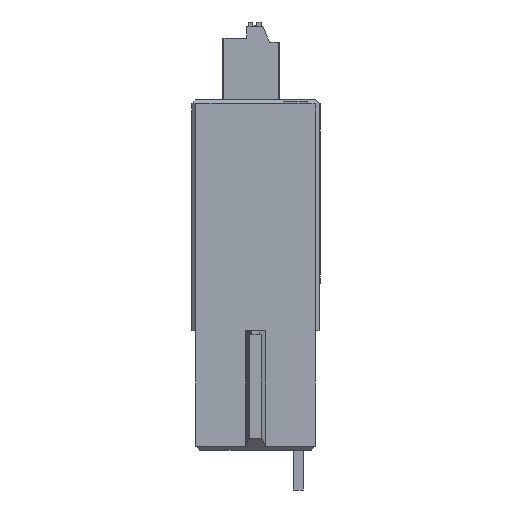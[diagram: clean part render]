
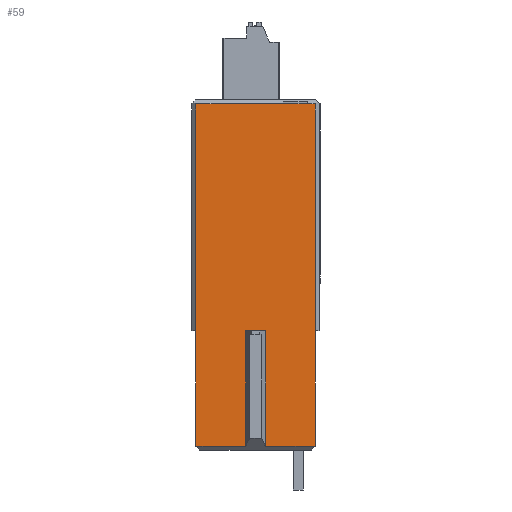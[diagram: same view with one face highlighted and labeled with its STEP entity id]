
A CAD part, front view. The second image highlights one B-rep face of the part: STEP entity #59.
In plain terms, the highlighted planar face has unit normal (0, -1, 0).
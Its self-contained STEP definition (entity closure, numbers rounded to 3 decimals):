
#16=VERTEX_POINT('',#17);
#17=CARTESIAN_POINT('',(-31.0,0.,57.0));
#42=VERTEX_POINT('',#43);
#43=CARTESIAN_POINT('',(-31.0,0.0,0.));
#49=EDGE_CURVE('',#42,#16,#50,.T.);
#50=LINE('',#51,#52);
#51=CARTESIAN_POINT('',(-31.0,0.,7.126));
#52=VECTOR('',#53,1.0);
#53=DIRECTION('',(0.,0.,1.0));
#59=ADVANCED_FACE('',(#60),#149,.T.);
#60=FACE_BOUND('',#61,.T.);
#61=EDGE_LOOP('',(#62,#72,#80,#88,#94,#95,#103,#111,#119,#127,#135,#143));
#62=ORIENTED_EDGE('',*,*,#63,.T.);
#63=EDGE_CURVE('',#64,#66,#68,.F.);
#64=VERTEX_POINT('',#65);
#65=CARTESIAN_POINT('',(-1.0,0.0,0.0));
#66=VERTEX_POINT('',#67);
#67=CARTESIAN_POINT('',(-1.0,0.,57.0));
#68=LINE('',#69,#70);
#69=CARTESIAN_POINT('',(-1.0,0.,7.126));
#70=VECTOR('',#71,1.0);
#71=DIRECTION('',(0.,0.,-1.0));
#72=ORIENTED_EDGE('',*,*,#73,.T.);
#73=EDGE_CURVE('',#66,#74,#76,.F.);
#74=VERTEX_POINT('',#75);
#75=CARTESIAN_POINT('',(-3.0,0.,57.0));
#76=LINE('',#77,#78);
#77=CARTESIAN_POINT('',(-3.0,0.,57.0));
#78=VECTOR('',#79,1.0);
#79=DIRECTION('',(1.0,0.0,0.0));
#80=ORIENTED_EDGE('',*,*,#81,.T.);
#81=EDGE_CURVE('',#74,#82,#84,.T.);
#82=VERTEX_POINT('',#83);
#83=CARTESIAN_POINT('',(-9.0,0.,57.0));
#84=LINE('',#85,#86);
#85=CARTESIAN_POINT('',(-3.0,0.,57.0));
#86=VECTOR('',#87,1.0);
#87=DIRECTION('',(-1.0,0.0,0.0));
#88=ORIENTED_EDGE('',*,*,#89,.T.);
#89=EDGE_CURVE('',#82,#16,#90,.F.);
#90=LINE('',#91,#92);
#91=CARTESIAN_POINT('',(-31.0,0.,57.0));
#92=VECTOR('',#93,1.0);
#93=DIRECTION('',(1.0,0.0,0.0));
#94=ORIENTED_EDGE('',*,*,#49,.F.);
#95=ORIENTED_EDGE('',*,*,#96,.T.);
#96=EDGE_CURVE('',#42,#97,#99,.T.);
#97=VERTEX_POINT('',#98);
#98=CARTESIAN_POINT('',(-31.0,0.,-29.0));
#99=LINE('',#100,#101);
#100=CARTESIAN_POINT('',(-31.0,0.0,0.));
#101=VECTOR('',#102,1.0);
#102=DIRECTION('',(0.0,0.,-1.0));
#103=ORIENTED_EDGE('',*,*,#104,.T.);
#104=EDGE_CURVE('',#97,#105,#107,.T.);
#105=VERTEX_POINT('',#106);
#106=CARTESIAN_POINT('',(-18.5,0.,-29.0));
#107=LINE('',#108,#109);
#108=CARTESIAN_POINT('',(-8.0,0.,-29.0));
#109=VECTOR('',#110,1.0);
#110=DIRECTION('',(1.0,0.0,0.));
#111=ORIENTED_EDGE('',*,*,#112,.T.);
#112=EDGE_CURVE('',#105,#113,#115,.F.);
#113=VERTEX_POINT('',#114);
#114=CARTESIAN_POINT('',(-18.5,0.0,0.0));
#115=LINE('',#116,#117);
#116=CARTESIAN_POINT('',(-18.5,0.0,0.0));
#117=VECTOR('',#118,1.0);
#118=DIRECTION('',(0.0,0.,-1.0));
#119=ORIENTED_EDGE('',*,*,#120,.T.);
#120=EDGE_CURVE('',#113,#121,#123,.F.);
#121=VERTEX_POINT('',#122);
#122=CARTESIAN_POINT('',(-13.5,0.0,0.0));
#123=LINE('',#124,#125);
#124=CARTESIAN_POINT('',(-13.5,0.0,0.0));
#125=VECTOR('',#126,1.0);
#126=DIRECTION('',(-1.0,0.0,0.0));
#127=ORIENTED_EDGE('',*,*,#128,.T.);
#128=EDGE_CURVE('',#121,#129,#131,.T.);
#129=VERTEX_POINT('',#130);
#130=CARTESIAN_POINT('',(-13.5,0.,-29.0));
#131=LINE('',#132,#133);
#132=CARTESIAN_POINT('',(-13.5,0.0,0.0));
#133=VECTOR('',#134,1.0);
#134=DIRECTION('',(0.0,0.,-1.0));
#135=ORIENTED_EDGE('',*,*,#136,.T.);
#136=EDGE_CURVE('',#129,#137,#139,.T.);
#137=VERTEX_POINT('',#138);
#138=CARTESIAN_POINT('',(-1.0,0.,-29.0));
#139=LINE('',#140,#141);
#140=CARTESIAN_POINT('',(-8.0,0.,-29.0));
#141=VECTOR('',#142,1.0);
#142=DIRECTION('',(1.0,0.0,0.));
#143=ORIENTED_EDGE('',*,*,#144,.T.);
#144=EDGE_CURVE('',#137,#64,#145,.T.);
#145=LINE('',#146,#147);
#146=CARTESIAN_POINT('',(-1.0,0.,-29.0));
#147=VECTOR('',#148,1.0);
#148=DIRECTION('',(0.0,0.,1.0));
#149=PLANE('',#150);
#150=AXIS2_PLACEMENT_3D('',#151,#152,#153);
#151=CARTESIAN_POINT('',(-16.0,0.,14.252));
#152=DIRECTION('',(0.0,-1.0,0.));
#153=DIRECTION('',(0.0,0.,-1.0));
